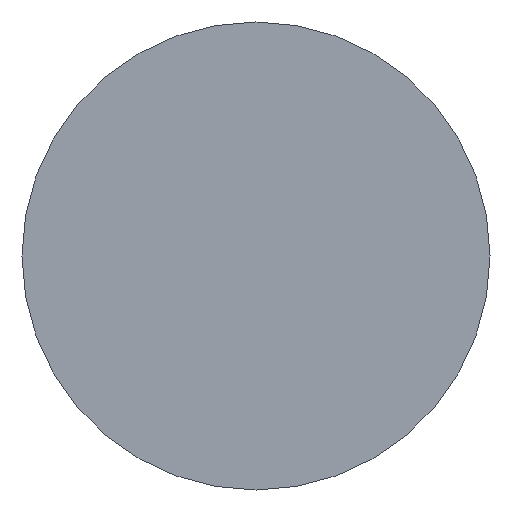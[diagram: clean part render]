
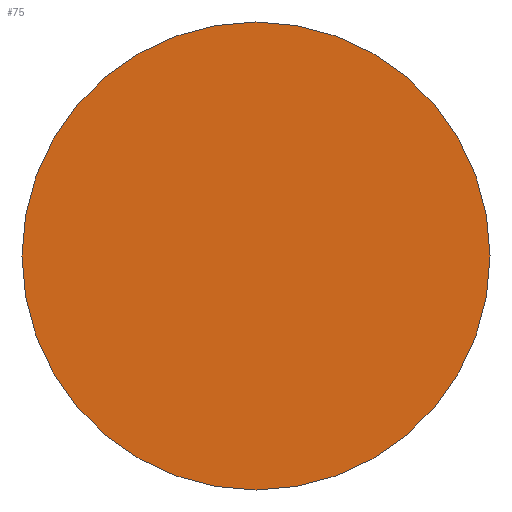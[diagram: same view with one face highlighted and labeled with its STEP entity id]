
A CAD part, left-side view. The second image highlights one B-rep face of the part: STEP entity #75.
In plain terms, the highlighted planar face has unit normal (-1, 0, 0).
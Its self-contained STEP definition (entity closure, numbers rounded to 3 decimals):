
#3 = CARTESIAN_POINT ( 'NONE',  ( 0., 0., 0. ) ) ;
#6 = DIRECTION ( 'NONE',  ( 1., 0., 0. ) ) ;
#17 = DIRECTION ( 'NONE',  ( 1., 0., 0. ) ) ;
#41 = DIRECTION ( 'NONE',  ( 0., -1., 0. ) ) ;
#46 = EDGE_LOOP ( 'NONE', ( #199, #172 ) ) ;
#56 = FACE_OUTER_BOUND ( 'NONE', #46, .T. ) ;
#75 = ADVANCED_FACE ( 'NONE', ( #56 ), #231, .T. ) ;
#84 = VERTEX_POINT ( 'NONE', #183 ) ;
#88 = CARTESIAN_POINT ( 'NONE',  ( 0., 9., 0. ) ) ;
#91 = CARTESIAN_POINT ( 'NONE',  ( 0., 0., 0. ) ) ;
#94 = DIRECTION ( 'NONE',  ( 0., 1., 0. ) ) ;
#100 = CIRCLE ( 'NONE', #264, 9. ) ;
#103 = CIRCLE ( 'NONE', #154, 9. ) ;
#113 = AXIS2_PLACEMENT_3D ( 'NONE', #150, #185, #41 ) ;
#130 = DIRECTION ( 'NONE',  ( 0., 1., 0. ) ) ;
#137 = EDGE_CURVE ( 'NONE', #84, #269, #103, .T. ) ;
#150 = CARTESIAN_POINT ( 'NONE',  ( 0., 0., 0. ) ) ;
#154 = AXIS2_PLACEMENT_3D ( 'NONE', #3, #6, #130 ) ;
#172 = ORIENTED_EDGE ( 'NONE', *, *, #137, .F. ) ;
#183 = CARTESIAN_POINT ( 'NONE',  ( 0., -9., 0. ) ) ;
#184 = EDGE_CURVE ( 'NONE', #269, #84, #100, .T. ) ;
#185 = DIRECTION ( 'NONE',  ( -1., 0., 0. ) ) ;
#199 = ORIENTED_EDGE ( 'NONE', *, *, #184, .F. ) ;
#231 = PLANE ( 'NONE',  #113 ) ;
#264 = AXIS2_PLACEMENT_3D ( 'NONE', #91, #17, #94 ) ;
#269 = VERTEX_POINT ( 'NONE', #88 ) ;
